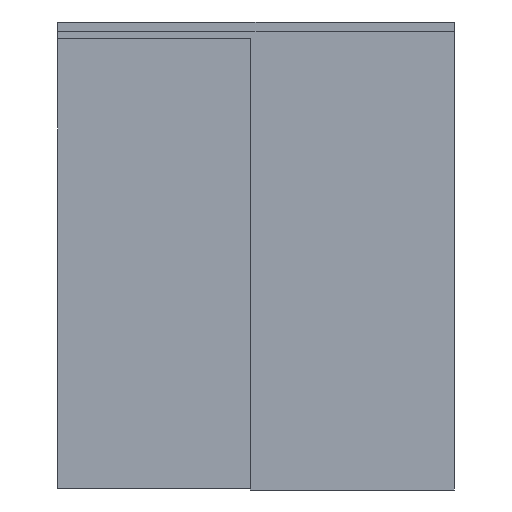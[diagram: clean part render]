
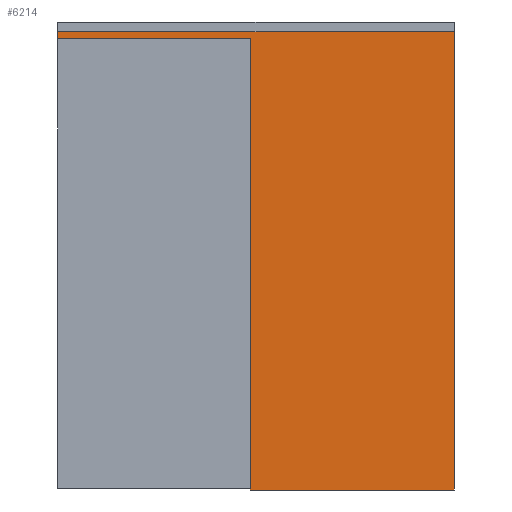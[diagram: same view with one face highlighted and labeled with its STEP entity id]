
A CAD part, front view. The second image highlights one B-rep face of the part: STEP entity #6214.
In plain terms, the highlighted planar face has unit normal (0, -1, 0).
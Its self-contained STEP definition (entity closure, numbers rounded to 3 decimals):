
#6214=ADVANCED_FACE('',(#10508),#10509,.F.);
#10508=FACE_OUTER_BOUND('',#16892,.T.);
#10509=PLANE('',#16893);
#16892=EDGE_LOOP('',(#19438,#19439,#19440,#19441,#19442,#19443));
#16893=AXIS2_PLACEMENT_3D('',#19444,#19445,#19446);
#19438=ORIENTED_EDGE('',*,*,#24438,.T.);
#19439=ORIENTED_EDGE('',*,*,#24428,.F.);
#19440=ORIENTED_EDGE('',*,*,#24432,.F.);
#19441=ORIENTED_EDGE('',*,*,#24436,.T.);
#19442=ORIENTED_EDGE('',*,*,#24439,.F.);
#19443=ORIENTED_EDGE('',*,*,#24440,.F.);
#19444=CARTESIAN_POINT('',(0.0,-44.,2333.0));
#19445=DIRECTION('',(0.0,1.0,-0.0));
#19446=DIRECTION('',(0.0,0.0,1.0));
#24428=EDGE_CURVE('',#27419,#27414,#27421,.T.);
#24432=EDGE_CURVE('',#27425,#27419,#27427,.T.);
#24436=EDGE_CURVE('',#27425,#27431,#27433,.T.);
#24438=EDGE_CURVE('',#27435,#27414,#27436,.T.);
#24439=EDGE_CURVE('',#27437,#27431,#27438,.T.);
#24440=EDGE_CURVE('',#27435,#27437,#27439,.T.);
#27414=VERTEX_POINT('',#28112);
#27419=VERTEX_POINT('',#28119);
#27421=LINE('',#28122,#28123);
#27425=VERTEX_POINT('',#28128);
#27427=LINE('',#28131,#28132);
#27431=VERTEX_POINT('',#28137);
#27433=LINE('',#28140,#28141);
#27435=VERTEX_POINT('',#28143);
#27436=LINE('',#28144,#28145);
#27437=VERTEX_POINT('',#28146);
#27438=LINE('',#28147,#28148);
#27439=LINE('',#28149,#28150);
#28112=CARTESIAN_POINT('',(995.0,-44.,2335.0));
#28119=CARTESIAN_POINT('',(995.0,-44.,0.0));
#28122=CARTESIAN_POINT('',(995.0,-44.,7.0));
#28123=VECTOR('',#28886,1.0);
#28128=CARTESIAN_POINT('',(2050.0,-44.,0.0));
#28131=CARTESIAN_POINT('',(1327.5,-44.,0.0));
#28132=VECTOR('',#28889,1.0);
#28137=CARTESIAN_POINT('',(2050.0,-44.,2368.0));
#28140=CARTESIAN_POINT('',(2050.0,-44.,7.0));
#28141=VECTOR('',#28892,1.0);
#28143=CARTESIAN_POINT('',(0.0,-44.,2335.0));
#28144=CARTESIAN_POINT('',(0.0,-44.,2335.0));
#28145=VECTOR('',#28893,1.0);
#28146=CARTESIAN_POINT('',(0.0,-44.,2368.0));
#28147=CARTESIAN_POINT('',(1270.0,-44.,2368.0));
#28148=VECTOR('',#28894,1.0);
#28149=CARTESIAN_POINT('',(0.0,-44.,2301.0));
#28150=VECTOR('',#28895,1.0);
#28886=DIRECTION('',(0.0,0.0,1.0));
#28889=DIRECTION('',(-1.0,0.0,0.0));
#28892=DIRECTION('',(0.0,0.0,1.0));
#28893=DIRECTION('',(1.0,0.0,0.0));
#28894=DIRECTION('',(1.0,0.0,0.0));
#28895=DIRECTION('',(0.0,0.0,1.0));
